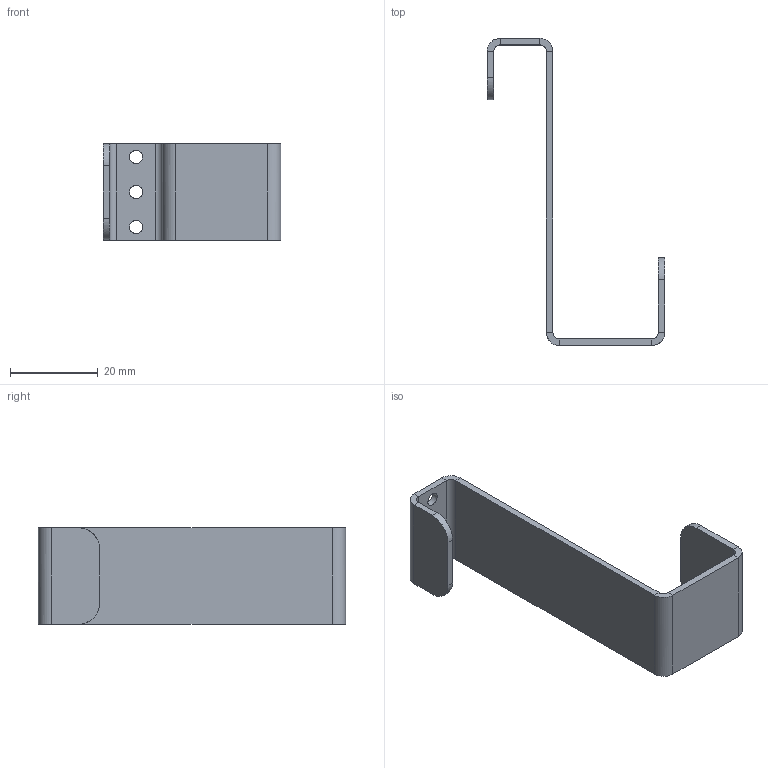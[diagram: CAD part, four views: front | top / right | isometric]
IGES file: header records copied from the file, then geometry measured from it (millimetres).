
Global section: file name: Wieszak na grzejnik.ściane prysznica,; native system: Autodesk Inventor 2018; preprocessor: unknown; author: Verical; date: 20201229.234129; units: millimetre
Bounding box: 40.5 x 70 x 22 mm (x, y, z)
Volume: 4428.5 mm3; surface area: 6408.7 mm2
Topology: 1 solids, 1 shells, 45 faces, 103 edges, 60 vertices
Faces by surface type: bspline 45
